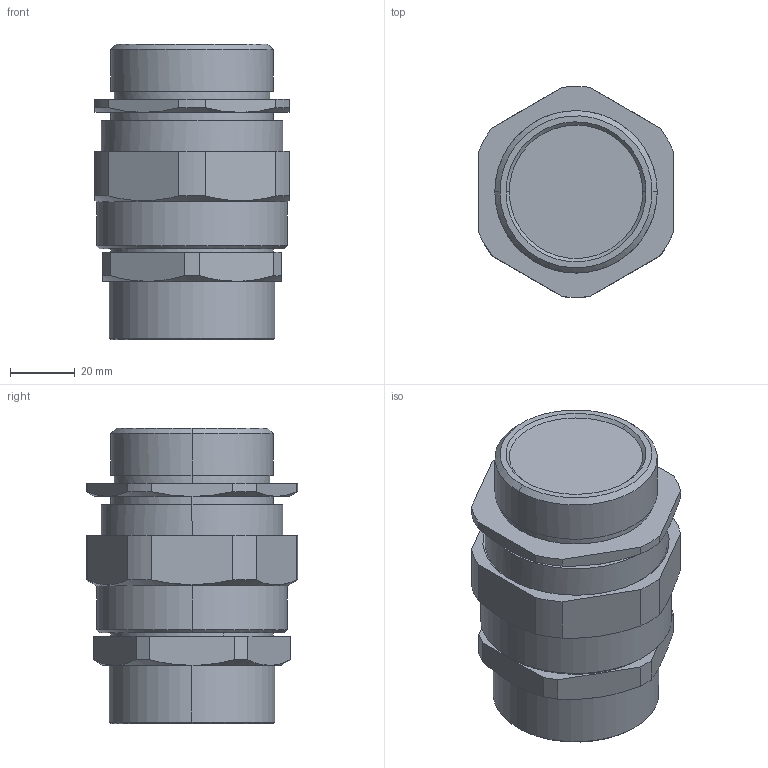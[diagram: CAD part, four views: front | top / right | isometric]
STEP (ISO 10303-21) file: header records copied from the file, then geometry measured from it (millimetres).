
FILE_DESCRIPTION (( 'STEP AP203' ), '1' );
FILE_NAME ('ﾊﾎﾂﾒﾂﾋ5MGﾍ.STEP', '2021-07-12T11:10:17', ( '' ), ( '' ), 'SwSTEP 2.0', 'SolidWorks 2018', '' );
FILE_SCHEMA (( 'CONFIG_CONTROL_DESIGN' ));
Length unit declared in the file: millimetre
Products named in the file (1): ﾊﾎﾂﾒﾂﾋ5MGﾍ
Bounding box: 60 x 64.99 x 91 mm (x, y, z)
Volume: 217532.3 mm3; surface area: 26374.8 mm2
Topology: 1 solids, 1 shells, 96 faces, 224 edges, 142 vertices
Faces by surface type: cylinder 36, plane 32, cone 28
Entity records: 5294 total; most frequent: CARTESIAN_POINT 3476, ORIENTED_EDGE 448, B_SPLINE_CURVE_WITH_KNOTS 224, EDGE_CURVE 224, DIRECTION 194, VERTEX_POINT 142, EDGE_LOOP 108, AXIS2_PLACEMENT_3D 97
